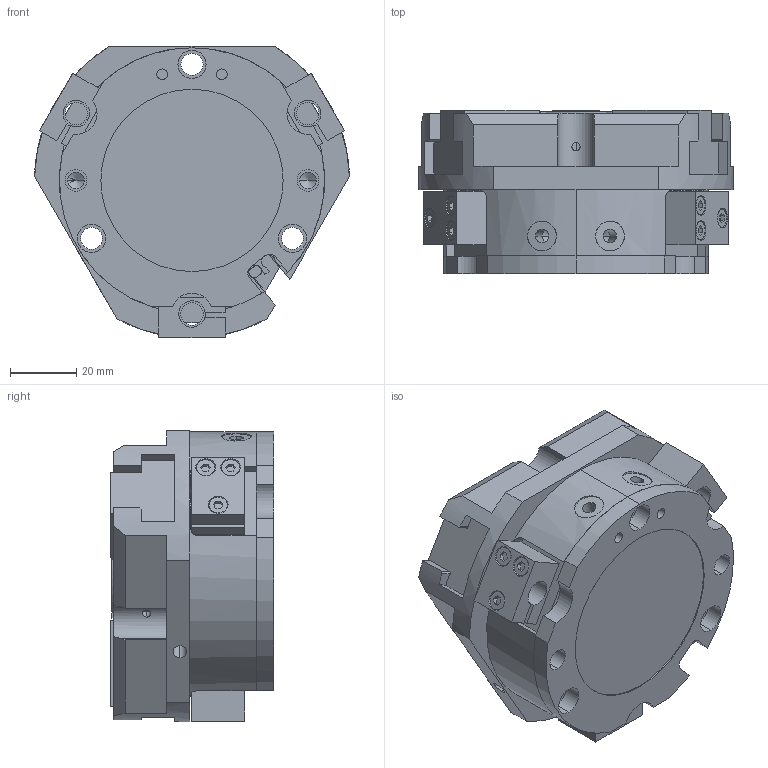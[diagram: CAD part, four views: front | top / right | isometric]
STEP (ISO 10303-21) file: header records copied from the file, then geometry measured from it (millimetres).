
FILE_DESCRIPTION (( 'STEP AP214' ), '1' );
FILE_NAME ('FCT 80A-1.STEP', '2021-09-17T04:48:12', ( 'DEEP' ), ( 'Microsoft' ), 'SwSTEP 2.0', 'SolidWorks 2016', '' );
FILE_SCHEMA (( 'AUTOMOTIVE_DESIGN' ));
Length unit declared in the file: millimetre
Products named in the file (17): FCT 80A-1; FCT 80A-1-005; FCT 80A-1-003; FCT 80A-1-002; FCT 80A-1-006; FCT 80A-1-001; FCT 80A-1-004
Assembly tree (10 placements, depth 2):
  FCT 80A-1
    FCT 80A-1-004
    FCT 80A-1-001  x3
    FCT 80A-1-006
    FCT 80A-1-002
    FCT 80A-1-003  x3
    FCT 80A-1-005
  FCT 80A-1-005
  FCT 80A-1-003
  FCT 80A-1-003
  FCT 80A-1-003
Bounding box: 94.97 x 49.3 x 88 mm (x, y, z)
Volume: 239691.5 mm3; surface area: 68326.9 mm2
Topology: 10 solids, 10 shells, 597 faces, 1514 edges, 966 vertices
Faces by surface type: plane 314, cylinder 211, cone 72
Entity records: 13993 total; most frequent: CARTESIAN_POINT 2753, DIRECTION 2290, ORIENTED_EDGE 2144, EDGE_CURVE 1072, AXIS2_PLACEMENT_3D 827, VERTEX_POINT 702, LINE 636, VECTOR 636
